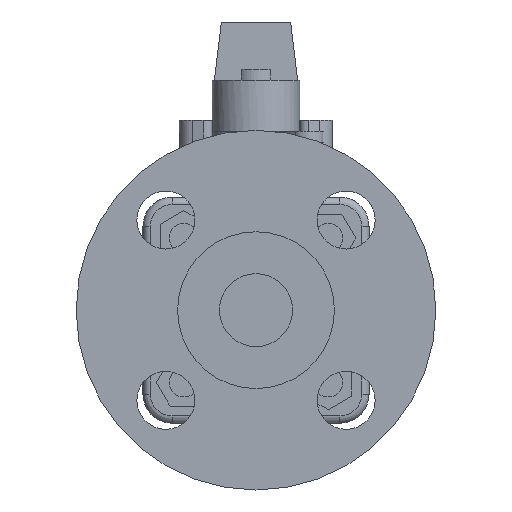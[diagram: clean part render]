
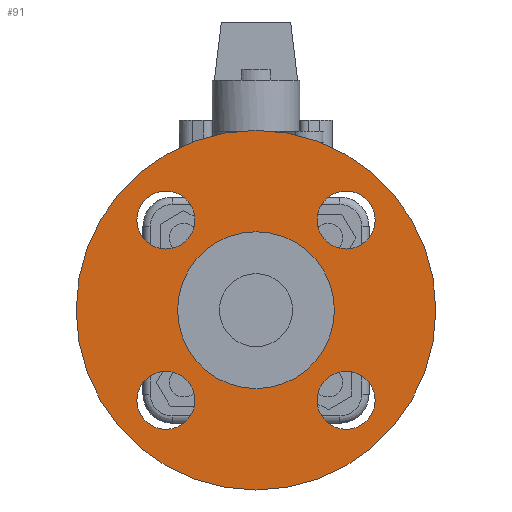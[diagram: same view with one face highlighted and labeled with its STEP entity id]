
A CAD part, left-side view. The second image highlights one B-rep face of the part: STEP entity #91.
In plain terms, the highlighted planar face has unit normal (-1, 0, 0).
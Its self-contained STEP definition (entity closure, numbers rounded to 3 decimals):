
#91=ADVANCED_FACE('',(#459,#460,#461,#462,#463,#464),#458,.T.);
#458=PLANE('',#2545);
#459=FACE_OUTER_BOUND('',#2546,.T.);
#460=FACE_BOUND('',#2547,.T.);
#461=FACE_BOUND('',#2548,.T.);
#462=FACE_BOUND('',#2549,.T.);
#463=FACE_BOUND('',#2550,.T.);
#464=FACE_BOUND('',#2551,.T.);
#2542=CARTESIAN_POINT('',(-56.9,-95.39,-108.6));
#2543=DIRECTION('',(-1.,0.,0.));
#2544=DIRECTION('',(0.,0.,1.));
#2545=AXIS2_PLACEMENT_3D('',#2542,#2543,#2544);
#2546=EDGE_LOOP('',(#4088,#4089));
#2547=EDGE_LOOP('',(#4090,#4091));
#2548=EDGE_LOOP('',(#4092,#4093));
#2549=EDGE_LOOP('',(#4094,#4095));
#2550=EDGE_LOOP('',(#4096,#4097));
#2551=EDGE_LOOP('',(#4098,#4099));
#4088=ORIENTED_EDGE('',*,*,#5194,.T.);
#4089=ORIENTED_EDGE('',*,*,#5195,.T.);
#4090=ORIENTED_EDGE('',*,*,#5196,.F.);
#4091=ORIENTED_EDGE('',*,*,#5197,.F.);
#4092=ORIENTED_EDGE('',*,*,#5198,.F.);
#4093=ORIENTED_EDGE('',*,*,#5199,.F.);
#4094=ORIENTED_EDGE('',*,*,#5200,.F.);
#4095=ORIENTED_EDGE('',*,*,#5201,.F.);
#4096=ORIENTED_EDGE('',*,*,#5202,.F.);
#4097=ORIENTED_EDGE('',*,*,#5203,.F.);
#4098=ORIENTED_EDGE('',*,*,#5204,.F.);
#4099=ORIENTED_EDGE('',*,*,#5205,.F.);
#5194=EDGE_CURVE('',#6531,#6532,#6533,.T.);
#5195=EDGE_CURVE('',#6532,#6531,#6539,.T.);
#5196=EDGE_CURVE('',#6545,#6546,#6547,.T.);
#5197=EDGE_CURVE('',#6546,#6545,#6553,.T.);
#5198=EDGE_CURVE('',#6559,#6560,#6561,.T.);
#5199=EDGE_CURVE('',#6560,#6559,#6567,.T.);
#5200=EDGE_CURVE('',#6573,#6574,#6575,.T.);
#5201=EDGE_CURVE('',#6574,#6573,#6581,.T.);
#5202=EDGE_CURVE('',#6587,#6588,#6589,.T.);
#5203=EDGE_CURVE('',#6588,#6587,#6595,.T.);
#5204=EDGE_CURVE('',#6601,#6602,#6603,.T.);
#5205=EDGE_CURVE('',#6602,#6601,#6609,.T.);
#6531=VERTEX_POINT('',#9919);
#6532=VERTEX_POINT('',#9920);
#6533=CIRCLE('',#9924,49.3);
#6539=CIRCLE('',#9928,49.3);
#6545=VERTEX_POINT('',#9929);
#6546=VERTEX_POINT('',#9930);
#6547=CIRCLE('',#9934,7.95);
#6553=CIRCLE('',#9938,7.95);
#6559=VERTEX_POINT('',#9939);
#6560=VERTEX_POINT('',#9940);
#6561=CIRCLE('',#9944,7.95);
#6567=CIRCLE('',#9948,7.95);
#6573=VERTEX_POINT('',#9949);
#6574=VERTEX_POINT('',#9950);
#6575=CIRCLE('',#9954,7.95);
#6581=CIRCLE('',#9958,7.95);
#6587=VERTEX_POINT('',#9959);
#6588=VERTEX_POINT('',#9960);
#6589=CIRCLE('',#9964,7.95);
#6595=CIRCLE('',#9968,7.95);
#6601=VERTEX_POINT('',#9969);
#6602=VERTEX_POINT('',#9970);
#6603=CIRCLE('',#9974,21.5);
#6609=CIRCLE('',#9978,21.5);
#9919=CARTESIAN_POINT('',(-56.9,0.,49.3));
#9920=CARTESIAN_POINT('',(-56.9,0.,-49.3));
#9921=CARTESIAN_POINT('',(-56.9,0.,0.));
#9922=DIRECTION('',(-1.,0.,0.));
#9923=DIRECTION('',(0.,0.,1.));
#9924=AXIS2_PLACEMENT_3D('',#9921,#9922,#9923);
#9925=CARTESIAN_POINT('',(-56.9,0.,0.));
#9926=DIRECTION('',(-1.,0.,0.));
#9927=DIRECTION('',(0.,0.,1.));
#9928=AXIS2_PLACEMENT_3D('',#9925,#9926,#9927);
#9929=CARTESIAN_POINT('',(-56.9,24.713,-16.763));
#9930=CARTESIAN_POINT('',(-56.9,24.713,-32.663));
#9931=CARTESIAN_POINT('',(-56.9,24.713,-24.713));
#9932=DIRECTION('',(-1.,0.,0.));
#9933=DIRECTION('',(0.,0.,-1.));
#9934=AXIS2_PLACEMENT_3D('',#9931,#9932,#9933);
#9935=CARTESIAN_POINT('',(-56.9,24.713,-24.713));
#9936=DIRECTION('',(-1.,0.,0.));
#9937=DIRECTION('',(0.,0.,-1.));
#9938=AXIS2_PLACEMENT_3D('',#9935,#9936,#9937);
#9939=CARTESIAN_POINT('',(-56.9,-24.713,-32.663));
#9940=CARTESIAN_POINT('',(-56.9,-24.713,-16.763));
#9941=CARTESIAN_POINT('',(-56.9,-24.713,-24.713));
#9942=DIRECTION('',(-1.,0.,0.));
#9943=DIRECTION('',(0.,0.,1.));
#9944=AXIS2_PLACEMENT_3D('',#9941,#9942,#9943);
#9945=CARTESIAN_POINT('',(-56.9,-24.713,-24.713));
#9946=DIRECTION('',(-1.,0.,0.));
#9947=DIRECTION('',(0.,0.,1.));
#9948=AXIS2_PLACEMENT_3D('',#9945,#9946,#9947);
#9949=CARTESIAN_POINT('',(-56.9,-24.713,32.663));
#9950=CARTESIAN_POINT('',(-56.9,-24.713,16.763));
#9951=CARTESIAN_POINT('',(-56.9,-24.713,24.713));
#9952=DIRECTION('',(-1.,0.,0.));
#9953=DIRECTION('',(0.,0.,-1.));
#9954=AXIS2_PLACEMENT_3D('',#9951,#9952,#9953);
#9955=CARTESIAN_POINT('',(-56.9,-24.713,24.713));
#9956=DIRECTION('',(-1.,0.,0.));
#9957=DIRECTION('',(0.,0.,-1.));
#9958=AXIS2_PLACEMENT_3D('',#9955,#9956,#9957);
#9959=CARTESIAN_POINT('',(-56.9,24.713,16.763));
#9960=CARTESIAN_POINT('',(-56.9,24.713,32.663));
#9961=CARTESIAN_POINT('',(-56.9,24.713,24.713));
#9962=DIRECTION('',(-1.,0.,0.));
#9963=DIRECTION('',(0.,0.,1.));
#9964=AXIS2_PLACEMENT_3D('',#9961,#9962,#9963);
#9965=CARTESIAN_POINT('',(-56.9,24.713,24.713));
#9966=DIRECTION('',(-1.,0.,0.));
#9967=DIRECTION('',(0.,0.,1.));
#9968=AXIS2_PLACEMENT_3D('',#9965,#9966,#9967);
#9969=CARTESIAN_POINT('',(-56.9,0.,-21.5));
#9970=CARTESIAN_POINT('',(-56.9,0.,21.5));
#9971=CARTESIAN_POINT('',(-56.9,0.,0.));
#9972=DIRECTION('',(-1.,0.,0.));
#9973=DIRECTION('',(0.,0.,1.));
#9974=AXIS2_PLACEMENT_3D('',#9971,#9972,#9973);
#9975=CARTESIAN_POINT('',(-56.9,0.,0.));
#9976=DIRECTION('',(-1.,0.,0.));
#9977=DIRECTION('',(0.,0.,1.));
#9978=AXIS2_PLACEMENT_3D('',#9975,#9976,#9977);
